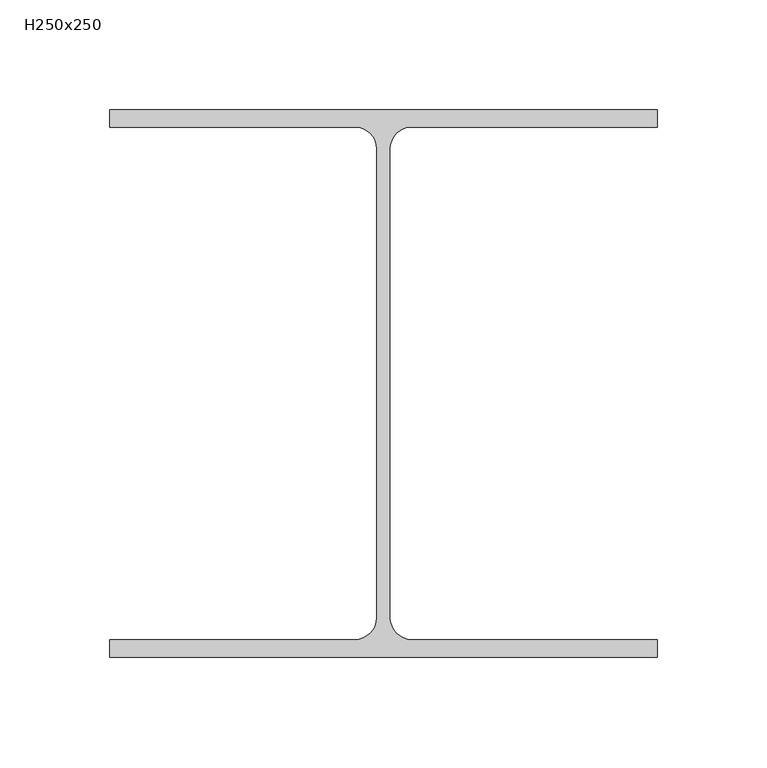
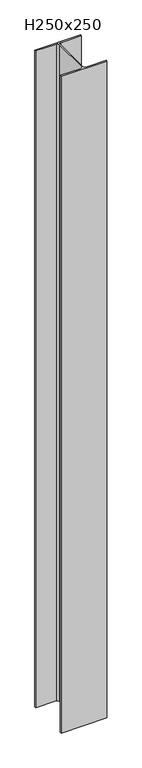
"""IFC4 building model written with IfcOpenShell, lengths in millimetres: column geometry, H型鋼柱 : H250x250."""

from ifc_helpers import new_model, si_unit, point, frame, frame_2d, origin, place, context, project, spatial, polyline, circle_curve, trimmed, segment, composite_curve, outline, extrude, source, transform, mapped, element, save


def h250x250_fc2eb51f(model_context):
    return source(origin(), model_context, "Body", "SweptSolid", [
        extrude(outline(composite_curve([segment(polyline([(125.0, 125.0), (125.0, 117.0), (13.0, 117.0)]), True, "CONTINUOUS"), segment(trimmed(circle_curve(frame_2d((13.0, 107.0)), 10.0), [point((13.0, 117.0))], [point((3.0, 107.0))], True, "CARTESIAN"), True, "CONTINUOUS"), segment(polyline([(3.0, 107.0), (3.0, -107.0)]), True, "CONTINUOUS"), segment(trimmed(circle_curve(frame_2d((13.0, -107.0)), 10.0), [point((3.0, -107.0))], [point((13.0, -117.0))], True, "CARTESIAN"), True, "CONTINUOUS"), segment(polyline([(13.0, -117.0), (125.0, -117.0), (125.0, -125.0), (-125.0, -125.0), (-125.0, -117.0), (-13.0, -117.0)]), True, "CONTINUOUS"), segment(trimmed(circle_curve(frame_2d((-13.0, -107.0)), 10.0), [point((-13.0, -117.0))], [point((-3.0, -107.0))], True, "CARTESIAN"), True, "CONTINUOUS"), segment(polyline([(-3.0, -107.0), (-3.0, 107.0)]), True, "CONTINUOUS"), segment(trimmed(circle_curve(frame_2d((-13.0, 107.0)), 10.0), [point((-3.0, 107.0))], [point((-13.0, 117.0))], True, "CARTESIAN"), True, "CONTINUOUS"), segment(polyline([(-13.0, 117.0), (-125.0, 117.0), (-125.0, 125.0), (125.0, 125.0)]), True, "CONTINUOUS")], self_intersect=False)), frame((0.0, 0.0, 6700.0), z_axis=(0.0, 0.0, 1.0), x_axis=(1.0, 0.0, 0.0)), (0.0, 0.0, 1.0), 3800.0),
    ])


if __name__ == "__main__":
    model = new_model("IFC4")
    model_context = context("Model", 3, world=origin())
    ifc_project = project(units=[si_unit("LENGTHUNIT", "METRE", prefix="MILLI")], contexts=[model_context])
    site = spatial("IfcSite", under=ifc_project)
    building = spatial("IfcBuilding", under=site)
    placement = place(None, origin())
    h250x250_shape = h250x250_fc2eb51f(model_context)
    element("IfcColumn", 1, ObjectType="H型鋼柱 : H250x250", at=placement, inside=building, context=model_context, shape_type="MappedRepresentation", body=[
        mapped(h250x250_shape, transform((0.0, 0.0, 0.0), x_axis=(1.0, 0.0, 0.0), y_axis=(0.0, 1.0, 0.0), z_axis=(0.0, 0.0, 1.0))),
    ])
    save(model, "model.ifc")
